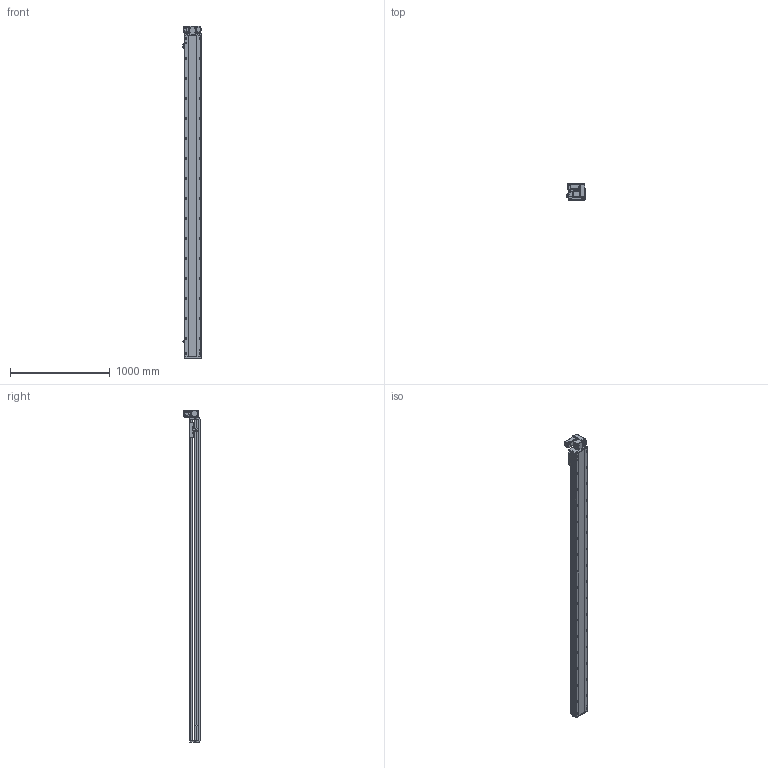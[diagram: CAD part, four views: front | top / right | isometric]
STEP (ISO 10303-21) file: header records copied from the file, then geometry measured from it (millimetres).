
FILE_DESCRIPTION (( 'STEP AP214' ), '1' );
FILE_NAME ('RTB17S-XX-2950-RW-M40-C4.STEP', '2025-12-11T09:16:43', ( '' ), ( '' ), 'SwSTEP 2.0', 'SolidWorks 2018', '' );
FILE_SCHEMA (( 'AUTOMOTIVE_DESIGN' ));
Length unit declared in the file: millimetre
Products named in the file (14): RTB17S-XX-2950-RW-M40-C4; RTB14-L-005P--轴承塑胶压盖^RTB17S-RW-皮带座装配-400W_RTB17S-XX-XX-RW-M40-C4; RTB17S-L-001耜醱啣^RTB17S-XX-XX-RW-M40-C4; RTB14-L-018P^RTB17S-RW-々湍釱蚾饜-400W_RTB17S-XX-XX-RW-M40-C4; OMRON EE-SX672 传感器^RTB17S-XX-XX-RW-M40-C4; RTH13-BL-012覜茼え俋离^RTB17S-XX-XX-RW-M40-C4; RTB14-L-008-M20--萇儂啣^RTB17S-RW-々湍釱蚾饜-400W_RTB17S-XX-XX-RW-M40-C4; RMP17S-L-014-T20--々湍釱^RTB17S-RW-々湍釱蚾饜-400W_RTB17S-XX-XX-RW-M40-C4; RTB17S-L-004佪裝蹟譫蟀諉釱^RTB17S-XX-XX-RW-M40-C4; RTB17-R-011菁釱^RTB17S-XX-XX-RW-M40-C4; RTB17S-L-007奻裔^RTB17S-XX-XX-RW-M40-C4; RTB17S-RW-々湍釱蚾饜-400W^RTB17S-XX-XX-RW-M40-C4; 400W侜督萇儂^RTB17S-XX-XX-RW-M40-C4; RTB14-L-017P^RTB17S-RW-々湍釱蚾饜-400W_RTB17S-XX-XX-RW-M40-C4
Assembly tree (16 placements, depth 3):
  RTB17S-XX-2950-RW-M40-C4
    RTB17-R-011菁釱^RTB17S-XX-XX-RW-M40-C4
    RTB17S-L-007奻裔^RTB17S-XX-XX-RW-M40-C4
    OMRON EE-SX672 传感器^RTB17S-XX-XX-RW-M40-C4  x3
    RTB17S-L-001耜醱啣^RTB17S-XX-XX-RW-M40-C4
    400W侜督萇儂^RTB17S-XX-XX-RW-M40-C4
    RTB17S-L-004佪裝蹟譫蟀諉釱^RTB17S-XX-XX-RW-M40-C4
    RTH13-BL-012覜茼え俋离^RTB17S-XX-XX-RW-M40-C4
    RTB17S-RW-々湍釱蚾饜-400W^RTB17S-XX-XX-RW-M40-C4
      RMP17S-L-014-T20--々湍釱^RTB17S-RW-々湍釱蚾饜-400W_RTB17S-XX-XX-RW-M40-C4
      RTB14-L-005P--轴承塑胶压盖^RTB17S-RW-皮带座装配-400W_RTB17S-XX-XX-RW-M40-C4
      RTB14-L-008-M20--萇儂啣^RTB17S-RW-々湍釱蚾饜-400W_RTB17S-XX-XX-RW-M40-C4
      RTB14-L-017P^RTB17S-RW-々湍釱蚾饜-400W_RTB17S-XX-XX-RW-M40-C4  x2
      RTB14-L-018P^RTB17S-RW-々湍釱蚾饜-400W_RTB17S-XX-XX-RW-M40-C4
Bounding box: 183.5 x 160.5 x 3322.5 mm (x, y, z)
Volume: 28276429.7 mm3; surface area: 3232183 mm2
Topology: 15 solids, 15 shells, 2365 faces, 6627 edges, 4329 vertices
Faces by surface type: plane 1088, cylinder 829, bspline 301, cone 139, torus 8
Entity records: 70313 total; most frequent: CARTESIAN_POINT 20032, ORIENTED_EDGE 10098, DIRECTION 9296, EDGE_CURVE 5049, VERTEX_POINT 3317, AXIS2_PLACEMENT_3D 3247, VECTOR 2802, LINE 2802
